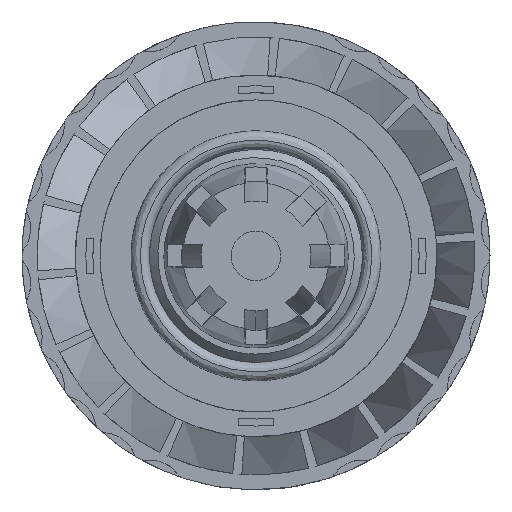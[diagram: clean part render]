
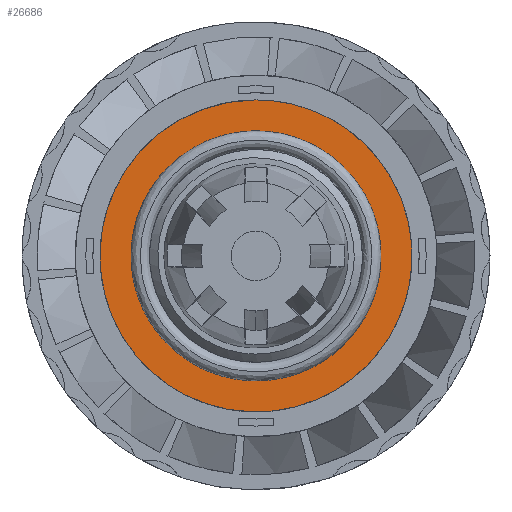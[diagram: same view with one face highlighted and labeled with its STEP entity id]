
A CAD part, front view. The second image highlights one B-rep face of the part: STEP entity #26686.
In plain terms, the highlighted free-form (B-spline) face has degree [1, 1] with [2, 2] control points.
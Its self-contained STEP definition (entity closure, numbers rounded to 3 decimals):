
#26626=CARTESIAN_POINT('V909',(0.0,-0.5,22.0));
#26627=VERTEX_POINT('V909',#26626);
#26635=CARTESIAN_POINT('E1403',(0.0,-0.5,22.0));
#26636=CARTESIAN_POINT('E1403',(-38.105,
   -0.5,22.0));
#26637=CARTESIAN_POINT('E1403',(-19.053,
   -0.5,-11.0));
#26638=CARTESIAN_POINT('E1403',(0.,-0.5,
   -44.0));
#26639=CARTESIAN_POINT('E1403',(19.053,
   -0.5,-11.0));
#26640=CARTESIAN_POINT('E1403',(38.105,
   -0.5,22.0));
#26641=CARTESIAN_POINT('E1403',(0.0,-0.5,22.0));
#26649=(BOUNDED_CURVE()B_SPLINE_CURVE(2,(#26635,#26636,#26637,
   #26638,#26639,#26640,#26641),.CIRCULAR_ARC.,.T.,.U.)
   B_SPLINE_CURVE_WITH_KNOTS((3,2,2,3),(0.0,2.133,
   4.267,6.4),.UNSPECIFIED.)CURVE()
   GEOMETRIC_REPRESENTATION_ITEM()RATIONAL_B_SPLINE_CURVE((1.0,
   0.5,1.0,0.5,1.0,0.5,1.0)
   )REPRESENTATION_ITEM('E1403'));
#26650=EDGE_CURVE('E1403',#26627,#26627,#26649,.T.);
#26655=CARTESIAN_POINT('F523',(28.15,-0.5,
   -28.15));
#26656=CARTESIAN_POINT('F523',(28.15,-0.5,
   28.15));
#26657=CARTESIAN_POINT('F523',(-28.15,
   -0.5,-28.15));
#26658=CARTESIAN_POINT('F523',(-28.15,
   -0.5,28.15));
#26659=QUASI_UNIFORM_SURFACE('F523',1,1,((#26655,#26657),(#26656,
   #26658)),.PLANE_SURF.,.F.,.F.,.U.);
#26660=ORIENTED_EDGE('F486',*,*,#26650,.T.);
#26661=EDGE_LOOP('F523',(#26660));
#26662=FACE_OUTER_BOUND('F523',#26661,.T.);
#26663=CARTESIAN_POINT('V980',(16.354,-0.5,
   0.));
#26664=VERTEX_POINT('V980',#26663);
#26665=CARTESIAN_POINT('E1510',(16.354,
   -0.5,0.));
#26666=CARTESIAN_POINT('E1510',(16.354,
   -0.5,28.326));
#26667=CARTESIAN_POINT('E1510',(-8.177,
   -0.5,14.163));
#26668=CARTESIAN_POINT('E1510',(-15.393,
   -0.5,9.996));
#26669=CARTESIAN_POINT('E1510',(-16.264,
   -0.5,1.709));
#26670=CARTESIAN_POINT('E1510',(-17.374,
   -0.5,-8.853));
#26671=CARTESIAN_POINT('E1510',(-8.177,
   -0.5,-14.163));
#26672=CARTESIAN_POINT('E1510',(16.354,
   -0.5,-28.326));
#26673=CARTESIAN_POINT('E1510',(16.354,
   -0.5,0.));
#26681=(BOUNDED_CURVE()B_SPLINE_CURVE(2,(#26665,#26666,#26667,
   #26668,#26669,#26670,#26671,#26672,#26673),.UNSPECIFIED.,.T.,.U.)
   B_SPLINE_CURVE_WITH_KNOTS((3,2,2,2,3),(0.0,4.153,
   6.041,8.305,12.458),
   .UNSPECIFIED.)CURVE()GEOMETRIC_REPRESENTATION_ITEM()
   RATIONAL_B_SPLINE_CURVE((1.0,0.433,
   0.75,0.772,1.0,0.726,
   0.75,0.433,1.0))REPRESENTATION_ITEM(
   'E1510'));
#26682=EDGE_CURVE('E1510',#26664,#26664,#26681,.T.);
#26683=ORIENTED_EDGE('E1510',*,*,#26682,.F.);
#26684=EDGE_LOOP('F523',(#26683));
#26685=FACE_BOUND('F523',#26684,.T.);
#26686=ADVANCED_FACE('F523',(#26662,#26685),#26659,.T.);
